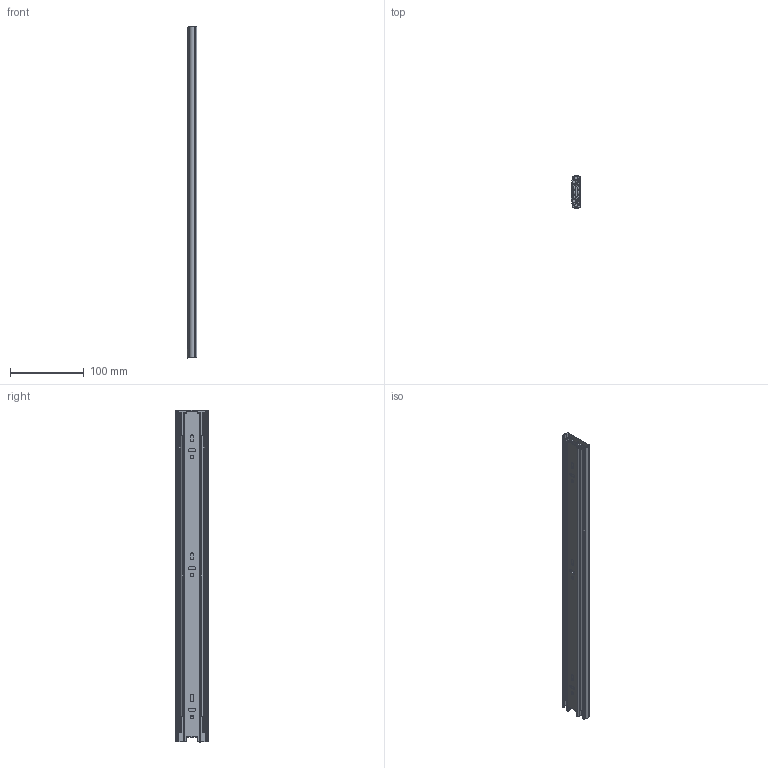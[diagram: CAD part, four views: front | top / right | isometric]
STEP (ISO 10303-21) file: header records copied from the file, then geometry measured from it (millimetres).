
FILE_DESCRIPTION(/* description */ (''),/* implementation_level */ '2;1');
FILE_NAME(/* name */ '\\NAS\db20\L4-450\DR_L4-450.stp',/* time_stamp */ '2017-10-10T17:05:16+09:00',/* author */ ('user'),/* organization */ (''),/* preprocessor_version */ 'ST-DEVELOPER v15.6',/* originating_system */ 'Autodesk Inventor 2015',/* authorisation */ '');
FILE_SCHEMA (('AUTOMOTIVE_DESIGN { 1 0 10303 214 3 1 1 }'));
Length unit declared in the file: millimetre
Products named in the file (1): DR_L4-450
Bounding box: 12.7 x 44.62 x 450 mm (x, y, z)
Volume: 130191.8 mm3; surface area: 184888.8 mm2
Topology: 7 solids, 7 shells, 284 faces, 810 edges, 540 vertices
Faces by surface type: plane 167, cylinder 113, bspline 4
Full cylindrical faces by diameter (mm): 4.5 x3, 4.762 x2, 5 x5
Entity records: 9402 total; most frequent: CARTESIAN_POINT 1709, ORIENTED_EDGE 1596, DIRECTION 1576, EDGE_CURVE 798, LINE 562, VECTOR 562, VERTEX_POINT 538, AXIS2_PLACEMENT_3D 507
